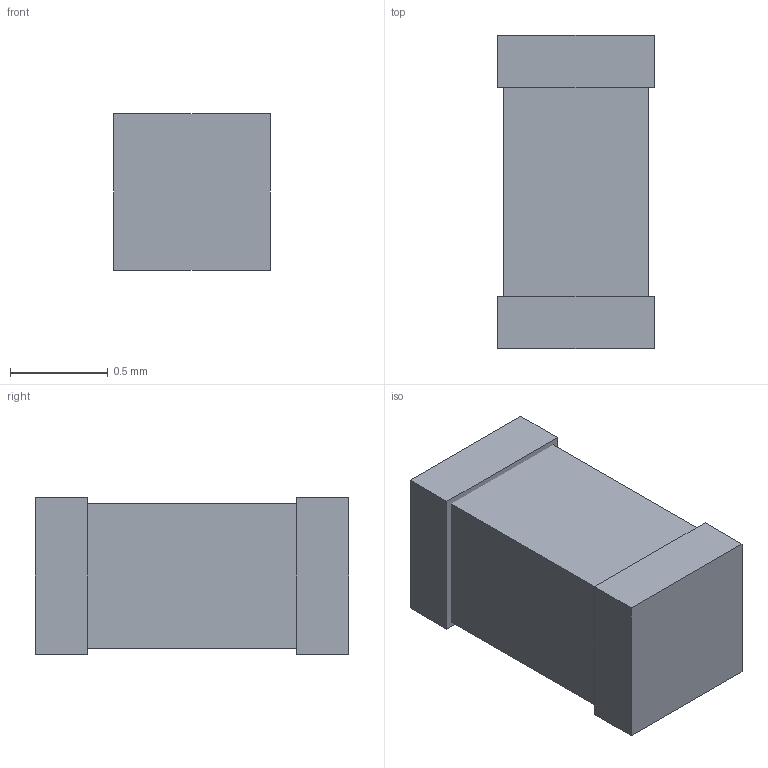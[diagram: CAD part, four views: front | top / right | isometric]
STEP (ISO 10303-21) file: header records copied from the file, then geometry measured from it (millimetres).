
FILE_DESCRIPTION(('FreeCAD Model'),'2;1');
FILE_NAME('Open CASCADE Shape Model','2025-02-24T19:01:52',( 'Krisjanis Rijnieks'),(''),'Open CASCADE STEP processor 7.7', 'FreeCAD','Unknown');
FILE_SCHEMA(('AUTOMOTIVE_DESIGN { 1 0 10303 214 1 1 1 1 }'));
Length unit declared in the file: millimetre
Products named in the file (4): 0603; Body0603; Contact0603A; Contact0603B
Assembly tree (3 placements, depth 2):
  0603
    Body0603
    Contact0603A
    Contact0603B
Bounding box: 0.8 x 1.6 x 0.8 mm (x, y, z)
Surface area: 9.9 mm2
Topology: 3 solids, 3 shells, 18 faces, 36 edges, 24 vertices
Faces by surface type: plane 18
Entity records: 553 total; most frequent: CARTESIAN_POINT 82, DIRECTION 80, ORIENTED_EDGE 72, EDGE_CURVE 36, LINE 36, VECTOR 36, VERTEX_POINT 24, AXIS2_PLACEMENT_3D 22
